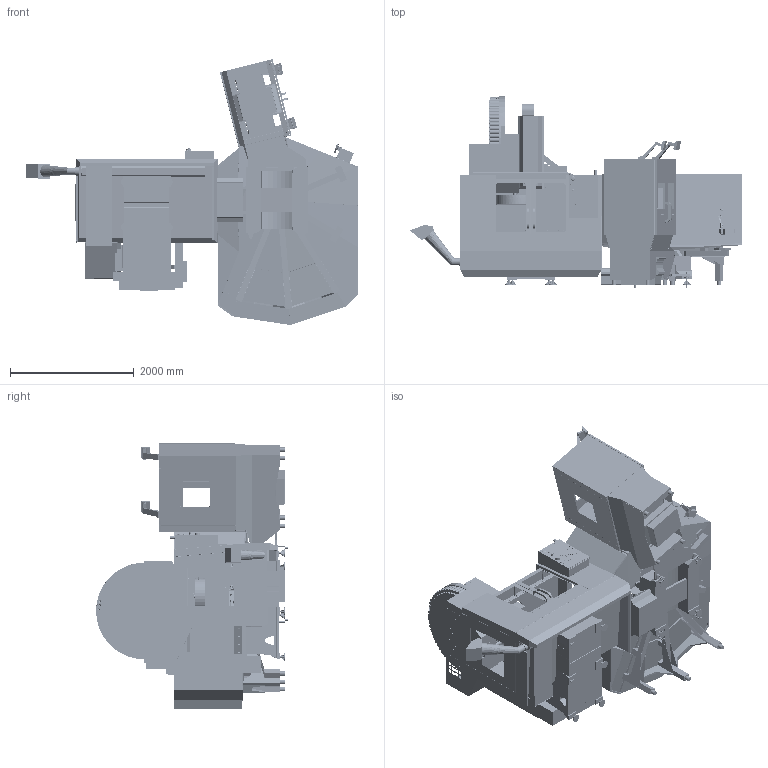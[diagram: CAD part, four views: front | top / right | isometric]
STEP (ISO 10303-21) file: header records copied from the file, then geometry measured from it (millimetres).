
FILE_DESCRIPTION (( 'STEP AP203' ), '1' );
FILE_NAME ('10000217763.STEP', '2023-05-17T18:52:58', ( '' ), ( '' ), 'SwSTEP 2.0', 'SolidWorks 2022', '' );
FILE_SCHEMA (( 'CONFIG_CONTROL_DESIGN' ));
Length unit declared in the file: inch
Products named in the file (52): 10000217707; 10000217712; 10000217758; 10000217764; 10000217752; VM-2(a); 10000217735; 10000217734; 10000217728; 10000217711; 10000217759; 10000217763; 10000217742; 10000217708; Pallet Inch; 10000217761; 10000217748; 10000217750; 10000217721; Main Enclosure_VMC-3-STATION_PALLET-POOL; 10000217757; Triple Pallet Assembly; Pallet Receiver; 10000217713; 10000217751; 10000217766; Main Casting_VMC-3-STATION_PALLET-POOL_1; 10000217718; 10000217719; Operator Station _VMC-3-STATION_PALLET-P; Single Pallet Assembly; 10000217755; 10000217744; 10000217726; 10000217760; Supports_VMC-3-STATION_PALLET-POOL_11_20; 10000217737; Pallet - Metric; 10000217715; 10000217722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
Assembly tree (82 placements, depth 5):
  10000217763
    Main Casting_VMC-3-STATION_PALLET-POOL_1
      10000217760
    Saddle_VMC-3-STATION_PALLET-POOL_11_2021
      10000217713
        10000217707
    Supports_VMC-3-STATION_PALLET-POOL_11_20
      10000217757
    Single Pallet Assembly
      10000217764
      10000217735  x2
      10000217762  x2
      10000217761
      Pallet Inch
      Pallet - Metric
    Triple Pallet Assembly
      10000217737
        10000217764
        10000217735  x2
        10000217762  x2
        10000217761
        Pallet Inch
        Pallet - Metric
      10000217720
        10000217764
        10000217735  x2
        10000217762  x2
        10000217761
        Pallet Inch
        Pallet - Metric
      10000217731
        10000217764
        10000217735  x2
        10000217762  x2
        10000217761
        Pallet Inch
        Pallet - Metric
    Operator Station _VMC-3-STATION_PALLET-P
      10000217708
    Main Enclosure_VMC-3-STATION_PALLET-POOL
      10000217758
    Misc_VMC-3-STATION_PALLET-POOL_11_2021-2
      10000217755
        10000217743
    VM-2(a)
      10000217748
        10000217726
          10000217749
        10000217751
          10000217750
      10000217721
        10000217759
          10000217722
      10000217719
        10000217741
          10000217744
      10000217742
        10000217728
          10000217753
        10000217710
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Bounding box: 5367.91 x 3102.64 x 4299.31 mm (x, y, z)
Volume: 4390925528.1 mm3; surface area: 177661181.1 mm2
Topology: 317 solids, 338 shells, 26789 faces, 69768 edges, 43679 vertices
Faces by surface type: plane 13886, cylinder 7682, cone 2770, bspline 1952, torus 340, sphere 159
Entity records: 825478 total; most frequent: CARTESIAN_POINT 243404, ORIENTED_EDGE 125330, DIRECTION 112059, EDGE_CURVE 62665, VERTEX_POINT 40198, LINE 38425, VECTOR 38425, AXIS2_PLACEMENT_3D 36817
